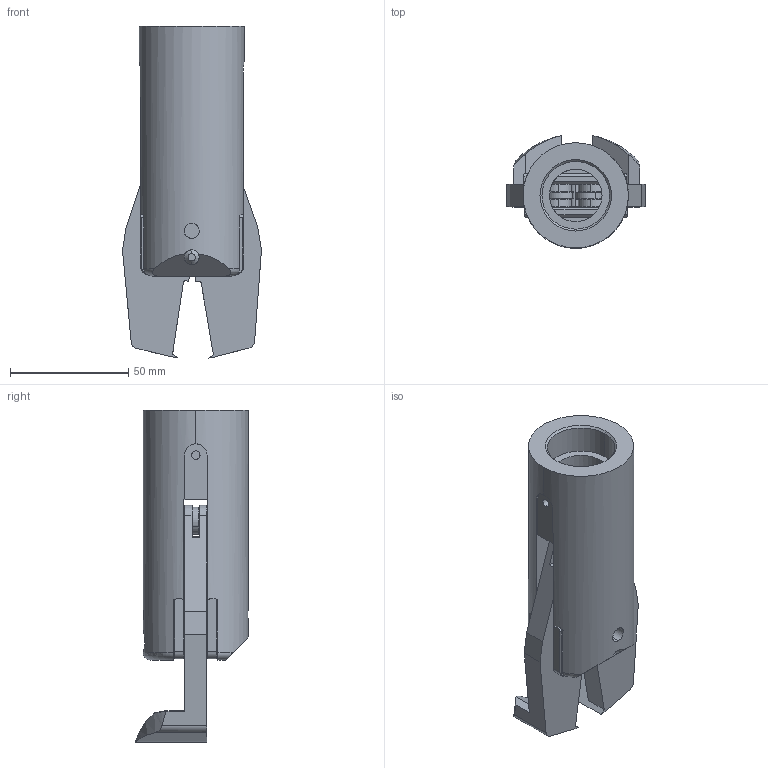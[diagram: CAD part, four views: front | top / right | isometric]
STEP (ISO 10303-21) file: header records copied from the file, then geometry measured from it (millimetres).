
FILE_DESCRIPTION (( 'STEP AP203' ), '1' );
FILE_NAME ('PGC-4-90.STEP', '2008-08-08T07:59:51', ( 'ANDREW' ), ( 'SIMONDS INC' ), 'SwSTEP 2.0', 'SolidWorks 2008', '' );
FILE_SCHEMA (( 'CONFIG_CONTROL_DESIGN' ));
Length unit declared in the file: inch
Products named in the file (9): 530-3-A; 3-24; 3-20; PGC-4-90; 502-3-C; 3-23; RPGC-4L-90; RPGC-4R-90; 3-19-453
Assembly tree (12 placements, depth 2):
  PGC-4-90
    3-20  x2
    3-23  x2
    3-24
    502-3-C
    3-19-453  x2
    RPGC-4L-90
    530-3-A  x2
    RPGC-4R-90
Bounding box: 58.67 x 47.65 x 140.17 mm (x, y, z)
Volume: 145519.1 mm3; surface area: 48189.7 mm2
Topology: 12 solids, 12 shells, 284 faces, 697 edges, 438 vertices
Faces by surface type: plane 122, cylinder 95, cone 62, torus 5
Entity records: 8126 total; most frequent: CARTESIAN_POINT 1636, DIRECTION 1175, ORIENTED_EDGE 1106, EDGE_CURVE 553, AXIS2_PLACEMENT_3D 431, VERTEX_POINT 354, VECTOR 313, LINE 313
